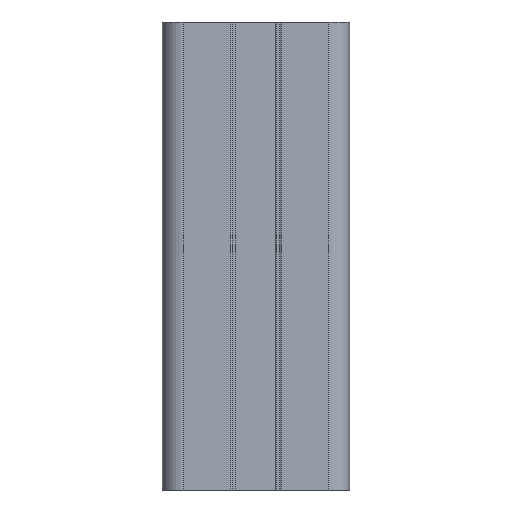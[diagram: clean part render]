
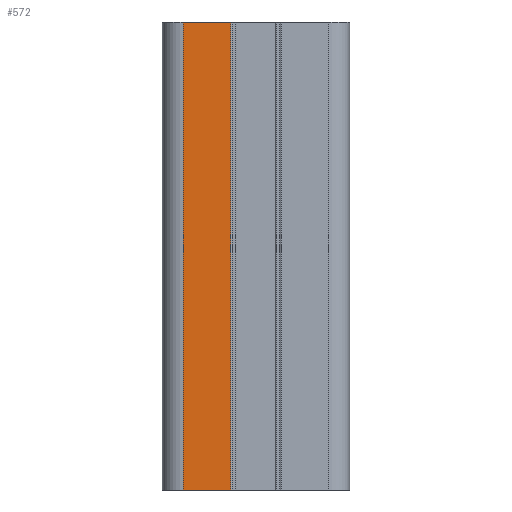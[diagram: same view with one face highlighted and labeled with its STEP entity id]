
A CAD part, front view. The second image highlights one B-rep face of the part: STEP entity #572.
In plain terms, the highlighted planar face has unit normal (0, -1, 0).
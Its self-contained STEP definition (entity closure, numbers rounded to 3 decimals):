
#514=CARTESIAN_POINT('',(216.999,96.452,100.0));
#515=VERTEX_POINT('',#514);
#523=CARTESIAN_POINT('',(216.999,96.452,0.0));
#524=VERTEX_POINT('',#523);
#525=CARTESIAN_POINT('',(216.999,96.452,0.0));
#526=DIRECTION('',(0.0,0.0,1.0));
#527=VECTOR('',#526,100.0);
#528=LINE('',#525,#527);
#529=EDGE_CURVE('',#524,#515,#528,.T.);
#542=CARTESIAN_POINT('',(216.999,96.452,0.0));
#543=DIRECTION('',(0.0,-1.0,0.0));
#544=DIRECTION('',(0.0,0.0,-1.0));
#545=AXIS2_PLACEMENT_3D('',#542,#543,#544);
#546=PLANE('',#545);
#547=CARTESIAN_POINT('',(206.899,96.452,100.0));
#548=VERTEX_POINT('',#547);
#549=CARTESIAN_POINT('',(216.999,96.452,100.0));
#550=DIRECTION('',(-1.0,0.0,0.0));
#551=VECTOR('',#550,10.1);
#552=LINE('',#549,#551);
#553=EDGE_CURVE('',#515,#548,#552,.T.);
#554=ORIENTED_EDGE('',*,*,#553,.T.);
#555=CARTESIAN_POINT('',(206.899,96.452,0.0));
#556=VERTEX_POINT('',#555);
#557=CARTESIAN_POINT('',(206.899,96.452,0.0));
#558=DIRECTION('',(0.0,0.0,1.0));
#559=VECTOR('',#558,100.0);
#560=LINE('',#557,#559);
#561=EDGE_CURVE('',#556,#548,#560,.T.);
#562=ORIENTED_EDGE('',*,*,#561,.F.);
#563=CARTESIAN_POINT('',(206.899,96.452,0.0));
#564=DIRECTION('',(1.0,0.0,0.0));
#565=VECTOR('',#564,10.1);
#566=LINE('',#563,#565);
#567=EDGE_CURVE('',#556,#524,#566,.T.);
#568=ORIENTED_EDGE('',*,*,#567,.T.);
#569=ORIENTED_EDGE('',*,*,#529,.T.);
#570=EDGE_LOOP('',(#554,#562,#568,#569));
#571=FACE_OUTER_BOUND('',#570,.T.);
#572=ADVANCED_FACE('',(#571),#546,.T.);
